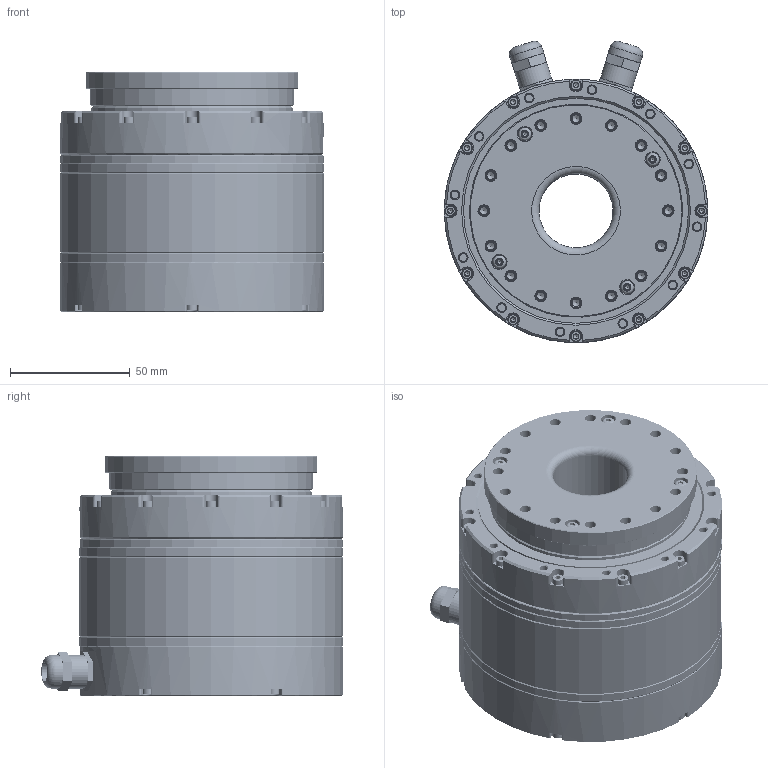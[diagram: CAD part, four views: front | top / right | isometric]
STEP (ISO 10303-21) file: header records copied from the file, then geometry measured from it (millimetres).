
FILE_DESCRIPTION(/* description */ (''),/* implementation_level */ '2;1');
FILE_NAME(/* name */ 'MIS25D-BS-C00.stp',/* time_stamp */ '2025-04-17T15:48:13+08:00',/* author */ (''),/* organization */ (''),/* preprocessor_version */ 'ST-DEVELOPER v16.7',/* originating_system */ 'SIEMENS PLM Software NX 12.0',/* authorisation */ '');
FILE_SCHEMA (('AUTOMOTIVE_DESIGN { 1 0 10303 214 3 1 1 1 }'));
Length unit declared in the file: millimetre
Products named in the file (1): MIS25D-BS-C00
Bounding box: 110 x 125.96 x 100 mm (x, y, z)
Volume: 351596 mm3; surface area: 235112.9 mm2
Topology: 54 solids, 58 shells, 2574 faces, 5799 edges, 3418 vertices
Faces by surface type: cone 973, plane 938, cylinder 566, torus 97
Full cylindrical faces by diameter (mm): 1.6 x10, 2 x2, 2.05 x36, 2.38 x24, 2.5 x22, 2.7 x54, 2.874 x16, 3.2 x4, 3.3 x32, 3.5 x16, 3.7 x6, 4 x6, 4.5 x50, 5.5 x16, 6 x16, 8 x8, 12 x6, 14 x4, 31 x1, 32 x1, 34 x1, 34.8 x1, 45 x1, 49 x2, 52 x2, 54 x1, 56 x1, 59 x1, 61.341 x1, 62.161 x1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
Entity records: 67256 total; most frequent: CARTESIAN_POINT 13670, DIRECTION 11608, ORIENTED_EDGE 8874, AXIS2_PLACEMENT_3D 5037, EDGE_CURVE 4437, EDGE_LOOP 3987, VERTEX_POINT 3172, FACE_BOUND 2711
